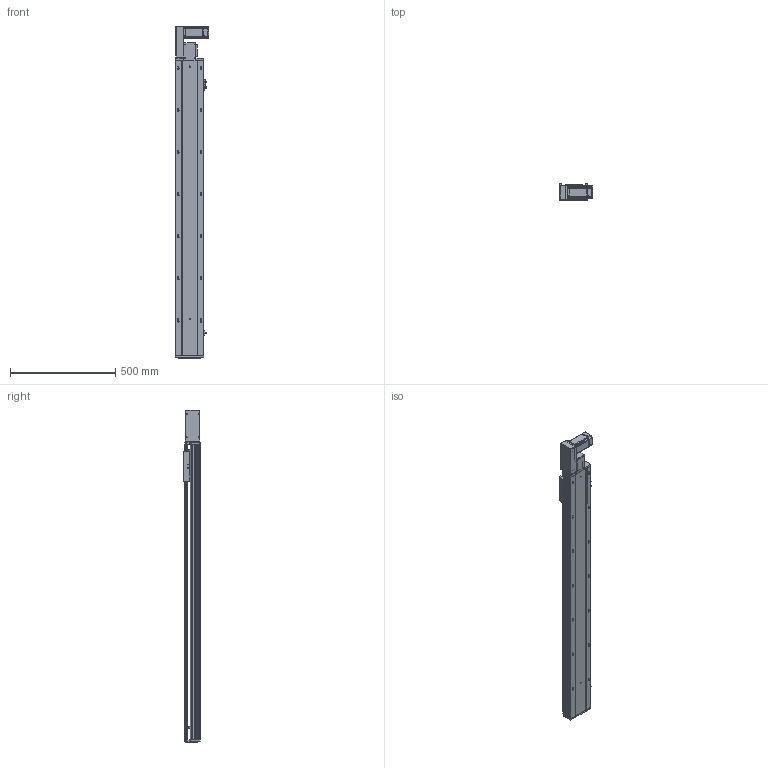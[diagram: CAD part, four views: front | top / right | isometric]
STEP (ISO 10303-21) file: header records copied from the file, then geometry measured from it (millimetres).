
FILE_DESCRIPTION (( 'STEP AP203' ), '1' );
FILE_NAME ('RY140-T-300-LK.SLDASM_1150.step', '2021-03-01T06:35:47', ( '盈信电脑' ), ( '东莞市道滘镇水果街19号' ), 'SwSTEP 2.0', 'SolidWorks 2012', '' );
FILE_SCHEMA (( 'CONFIG_CONTROL_DESIGN' ));
Length unit declared in the file: millimetre
Products named in the file (18): 滅袉蝶18-10; RY140-T-300-LK.SLDASM_1150; RY140-T翋肮謫裔啣; RY120-T蹟翐M4; 侂狟400W侜督萇儂; RY120-T主同步轮轴承压盖; RY140-T萇儂欶; RY140-T萇儂假蚾啣; 15; RY140-T翋肮祭謫盓傅釱; RY120外置感应片(140共用）; RY120-T肮祭湍揤踡輸2; RY120-T肮祭湍揤踡輸1; 覜茼ん672; RY140綴裔啣; RY140肮祭謫臏賑輸; RY140-T-300-DL倰第奻裔啣_1150; RY140-T-300-DL倰第菁釱_1150
Assembly tree (23 placements, depth 3):
  RY140-T-300-LK.SLDASM_1150
    RY140-T-300-DL倰第菁釱_1150
    RY140肮祭謫臏賑輸
    RY140-T-300-DL倰第奻裔啣_1150
    RY140綴裔啣
    覜茼ん672  x3
    RY120外置感应片(140共用）
    RY120-T肮祭湍揤踡輸2
    RY120-T肮祭湍揤踡輸1
    RY140-T翋肮祭謫盓傅釱
    RY140-T萇儂假蚾啣
    侂狟400W侜督萇儂
      15
    RY120-T主同步轮轴承压盖
    RY120-T蹟翐M4  x4
    RY140-T萇儂欶
    滅袉蝶18-10  x2
    RY140-T翋肮謫裔啣
Bounding box: 157 x 78 x 1576.5 mm (x, y, z)
Volume: 4357332.4 mm3; surface area: 1670574.3 mm2
Topology: 22 solids, 22 shells, 2687 faces, 7337 edges, 4698 vertices
Faces by surface type: plane 1381, cylinder 976, cone 230, bspline 100
Entity records: 84693 total; most frequent: CARTESIAN_POINT 20585, ORIENTED_EDGE 13138, DIRECTION 12537, EDGE_CURVE 6569, VERTEX_POINT 4297, VECTOR 4217, LINE 4217, AXIS2_PLACEMENT_3D 4160
